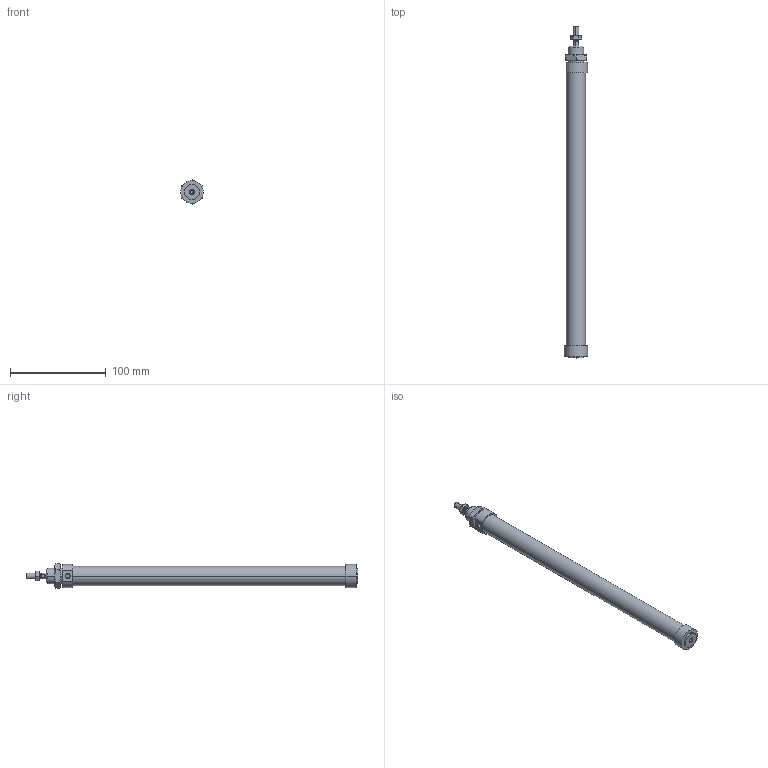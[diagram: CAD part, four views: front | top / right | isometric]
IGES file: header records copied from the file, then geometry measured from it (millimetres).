
Global section: file name: No Iges File Name specified; native system: AutoDesk Inventor R6.0; preprocessor: AutoDesk Inventor Iges Exporter R6.0; author: No Author specified; organization: No Organization specified; date: 20030402.184231; units: millimetre
Bounding box: 24 x 346 x 25.4 mm (x, y, z)
Volume: 104835 mm3; surface area: 34094.5 mm2
Topology: 4 solids, 4 shells, 108 faces, 229 edges, 135 vertices
Faces by surface type: cone 34, plane 33, bspline 21, cylinder 16, revolution 4
